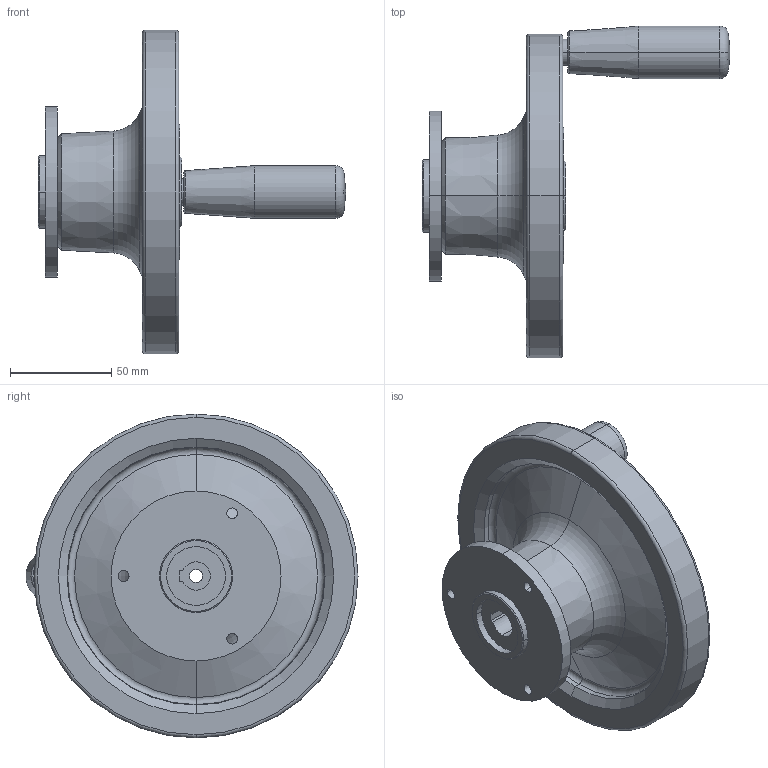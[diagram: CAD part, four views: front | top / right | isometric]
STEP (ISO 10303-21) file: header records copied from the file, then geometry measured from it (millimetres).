
FILE_DESCRIPTION (( 'STEP AP214' ), '1' );
FILE_NAME ('327-160-K14-D-2.step', '2020-05-07T07:44:22', ( '' ), ( '' ), 'SwSTEP 2.0', 'SolidWorks 2019', '' );
FILE_SCHEMA (( 'AUTOMOTIVE_DESIGN' ));
Length unit declared in the file: millimetre
Products named in the file (1): 327-160-K14-D-2
Bounding box: 152 x 164 x 160 mm (x, y, z)
Volume: 444457.6 mm3; surface area: 81870.6 mm2
Topology: 1 solids, 1 shells, 130 faces, 293 edges, 181 vertices
Faces by surface type: cylinder 41, plane 41, cone 28, torus 18, sphere 2
Entity records: 4785 total; most frequent: DIRECTION 710, CARTESIAN_POINT 650, ORIENTED_EDGE 586, EDGE_CURVE 293, AXIS2_PLACEMENT_3D 289, VERTEX_POINT 181, CIRCLE 158, EDGE_LOOP 154
